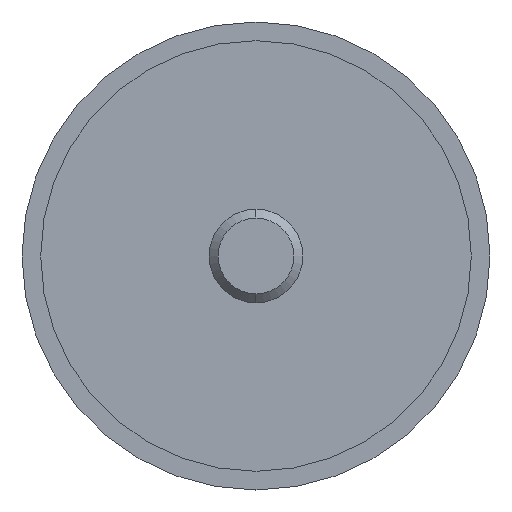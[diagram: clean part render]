
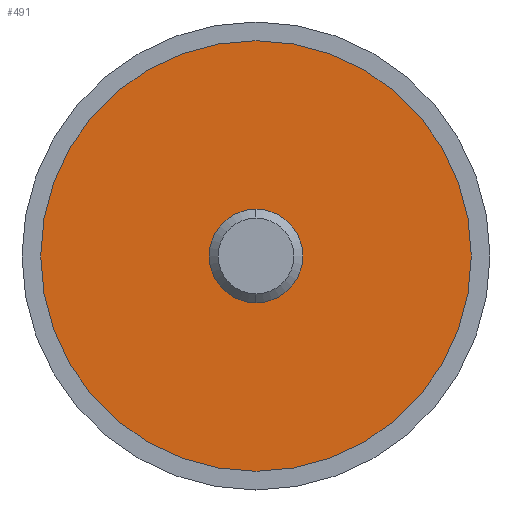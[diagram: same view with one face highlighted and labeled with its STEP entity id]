
A CAD part, left-side view. The second image highlights one B-rep face of the part: STEP entity #491.
In plain terms, the highlighted planar face has unit normal (-1, 0, 0).
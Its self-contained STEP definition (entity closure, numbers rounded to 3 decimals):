
#52 = CARTESIAN_POINT ( 'NONE',  ( -12.49, 0., -23. ) ) ;
#55 = CARTESIAN_POINT ( 'NONE',  ( -12.49, 0., 0. ) ) ;
#75 = EDGE_LOOP ( 'NONE', ( #328, #227 ) ) ;
#77 = EDGE_LOOP ( 'NONE', ( #651, #489 ) ) ;
#90 = CARTESIAN_POINT ( 'NONE',  ( -12.49, 0., 5. ) ) ;
#145 = DIRECTION ( 'NONE',  ( 1., 0., 0. ) ) ;
#152 = VERTEX_POINT ( 'NONE', #599 ) ;
#155 = CARTESIAN_POINT ( 'NONE',  ( -12.49, 0., -5. ) ) ;
#161 = PLANE ( 'NONE',  #560 ) ;
#167 = CARTESIAN_POINT ( 'NONE',  ( -12.49, 23., 0. ) ) ;
#168 = EDGE_CURVE ( 'NONE', #390, #289, #492, .T. ) ;
#179 = EDGE_CURVE ( 'NONE', #152, #609, #341, .T. ) ;
#181 = DIRECTION ( 'NONE',  ( -1., 0., 0. ) ) ;
#201 = AXIS2_PLACEMENT_3D ( 'NONE', #391, #488, #498 ) ;
#227 = ORIENTED_EDGE ( 'NONE', *, *, #168, .F. ) ;
#236 = EDGE_CURVE ( 'NONE', #609, #152, #534, .T. ) ;
#270 = FACE_BOUND ( 'NONE', #75, .T. ) ;
#276 = AXIS2_PLACEMENT_3D ( 'NONE', #55, #326, #636 ) ;
#286 = CARTESIAN_POINT ( 'NONE',  ( -12.49, 0., 0. ) ) ;
#289 = VERTEX_POINT ( 'NONE', #90 ) ;
#326 = DIRECTION ( 'NONE',  ( -1., 0., 0. ) ) ;
#328 = ORIENTED_EDGE ( 'NONE', *, *, #405, .F. ) ;
#335 = DIRECTION ( 'NONE',  ( -1., 0., 0. ) ) ;
#341 = CIRCLE ( 'NONE', #430, 23. ) ;
#366 = DIRECTION ( 'NONE',  ( 0., 0., -1. ) ) ;
#390 = VERTEX_POINT ( 'NONE', #155 ) ;
#391 = CARTESIAN_POINT ( 'NONE',  ( -12.49, 0., 0. ) ) ;
#394 = DIRECTION ( 'NONE',  ( 0., 0., 1. ) ) ;
#405 = EDGE_CURVE ( 'NONE', #289, #390, #593, .T. ) ;
#430 = AXIS2_PLACEMENT_3D ( 'NONE', #494, #335, #448 ) ;
#448 = DIRECTION ( 'NONE',  ( 0., 0., 1. ) ) ;
#488 = DIRECTION ( 'NONE',  ( -1., 0., 0. ) ) ;
#489 = ORIENTED_EDGE ( 'NONE', *, *, #236, .T. ) ;
#491 = ADVANCED_FACE ( 'NONE', ( #635, #270 ), #161, .F. ) ;
#492 = CIRCLE ( 'NONE', #201, 5. ) ;
#494 = CARTESIAN_POINT ( 'NONE',  ( -12.49, 0., 0. ) ) ;
#498 = DIRECTION ( 'NONE',  ( 0., 0., -1. ) ) ;
#534 = CIRCLE ( 'NONE', #643, 23. ) ;
#560 = AXIS2_PLACEMENT_3D ( 'NONE', #167, #145, #366 ) ;
#593 = CIRCLE ( 'NONE', #276, 5. ) ;
#599 = CARTESIAN_POINT ( 'NONE',  ( -12.49, 0., 23. ) ) ;
#609 = VERTEX_POINT ( 'NONE', #52 ) ;
#635 = FACE_OUTER_BOUND ( 'NONE', #77, .T. ) ;
#636 = DIRECTION ( 'NONE',  ( 0., 0., -1. ) ) ;
#643 = AXIS2_PLACEMENT_3D ( 'NONE', #286, #181, #394 ) ;
#651 = ORIENTED_EDGE ( 'NONE', *, *, #179, .T. ) ;
